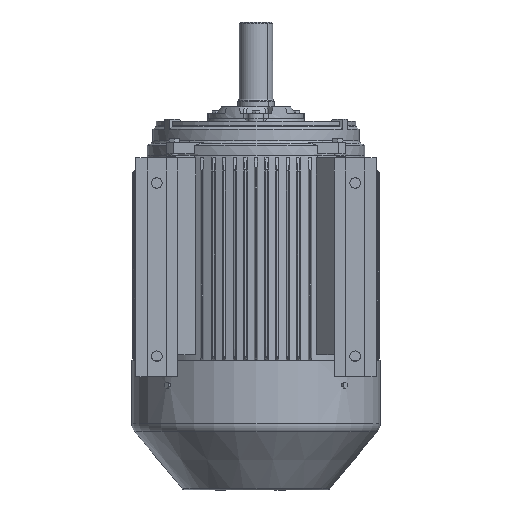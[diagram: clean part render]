
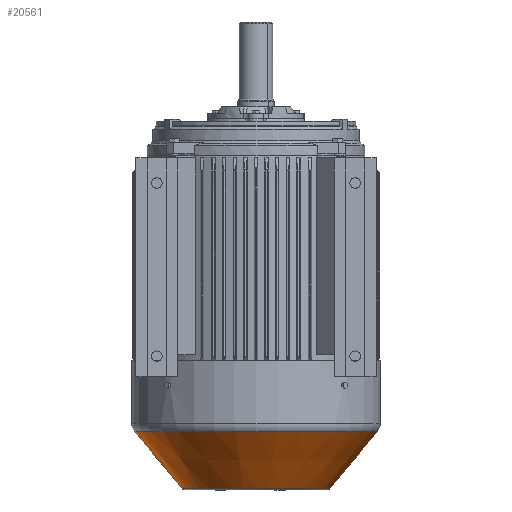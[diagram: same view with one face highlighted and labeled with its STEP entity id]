
A CAD part, front view. The second image highlights one B-rep face of the part: STEP entity #20561.
In plain terms, the highlighted conical face has half-angle 40 degrees and reference radius 132.173 mm.
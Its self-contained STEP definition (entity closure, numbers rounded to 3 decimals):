
#12034 = AXIS2_PLACEMENT_3D ( 'NONE', #53642, #53635, #53621 ) ;
#20561 = ADVANCED_FACE ( 'NONE', ( #82292 ), #82301, .T. ) ;
#24303 = EDGE_CURVE ( 'NONE', #67874, #67882, #61129, .T. ) ;
#24305 = EDGE_CURVE ( 'NONE', #67867, #67872, #61137, .T. ) ;
#24622 = EDGE_CURVE ( 'NONE', #67872, #67882, #61686, .T. ) ;
#24623 = EDGE_CURVE ( 'NONE', #67867, #67874, #61687, .T. ) ;
#33409 = EDGE_LOOP ( 'NONE', ( #89923, #89922, #89921, #89918 ) ) ;
#38604 = CARTESIAN_POINT ( 'NONE',  ( 128.301, 0., 0. ) ) ;
#38605 = DIRECTION ( 'NONE',  ( -1., 0., 0. ) ) ;
#38606 = DIRECTION ( 'NONE',  ( 0., -1., 0. ) ) ;
#38612 = CARTESIAN_POINT ( 'NONE',  ( 230.41, 0., 0. ) ) ;
#38613 = DIRECTION ( 'NONE',  ( -1., 0., 0. ) ) ;
#38614 = DIRECTION ( 'NONE',  ( 0., -1., 0. ) ) ;
#47882 = CARTESIAN_POINT ( 'NONE',  ( 230.41, 132.173, 0. ) ) ;
#47887 = CARTESIAN_POINT ( 'NONE',  ( 230.41, -132.173, 0. ) ) ;
#47889 = CARTESIAN_POINT ( 'NONE',  ( 128.301, 217.853, 0. ) ) ;
#47896 = CARTESIAN_POINT ( 'NONE',  ( 128.301, -217.853, 0. ) ) ;
#53621 = DIRECTION ( 'NONE',  ( 0., -1., 0. ) ) ;
#53635 = DIRECTION ( 'NONE',  ( -1., 0., 0. ) ) ;
#53642 = CARTESIAN_POINT ( 'NONE',  ( 230.41, 0., 0. ) ) ;
#59949 = AXIS2_PLACEMENT_3D ( 'NONE', #38604, #38605, #38606 ) ;
#59953 = AXIS2_PLACEMENT_3D ( 'NONE', #38612, #38613, #38614 ) ;
#61129 = CIRCLE ( 'NONE', #59949, 217.853 ) ;
#61137 = CIRCLE ( 'NONE', #59953, 132.173 ) ;
#61686 = LINE ( 'NONE', #88933, #61690 ) ;
#61687 = LINE ( 'NONE', #88947, #61694 ) ;
#61690 = VECTOR ( 'NONE', #88940, 1000. ) ;
#61694 = VECTOR ( 'NONE', #88948, 1000. ) ;
#67867 = VERTEX_POINT ( 'NONE', #47882 ) ;
#67872 = VERTEX_POINT ( 'NONE', #47887 ) ;
#67874 = VERTEX_POINT ( 'NONE', #47889 ) ;
#67882 = VERTEX_POINT ( 'NONE', #47896 ) ;
#82292 = FACE_OUTER_BOUND ( 'NONE', #33409, .T. ) ;
#82301 = CONICAL_SURFACE ( 'NONE', #12034, 132.173, 0.698 ) ;
#88933 = CARTESIAN_POINT ( 'NONE',  ( 230.41, -132.173, 0. ) ) ;
#88940 = DIRECTION ( 'NONE',  ( -0.766, -0.643, 0. ) ) ;
#88947 = CARTESIAN_POINT ( 'NONE',  ( 230.41, 132.173, 0. ) ) ;
#88948 = DIRECTION ( 'NONE',  ( -0.766, 0.643, 0. ) ) ;
#89918 = ORIENTED_EDGE ( 'NONE', *, *, #24303, .F. ) ;
#89921 = ORIENTED_EDGE ( 'NONE', *, *, #24622, .T. ) ;
#89922 = ORIENTED_EDGE ( 'NONE', *, *, #24305, .T. ) ;
#89923 = ORIENTED_EDGE ( 'NONE', *, *, #24623, .F. ) ;
